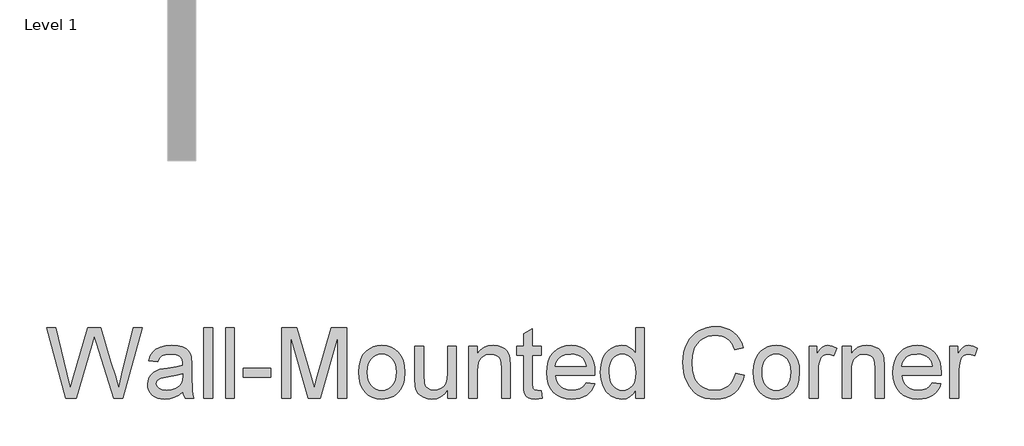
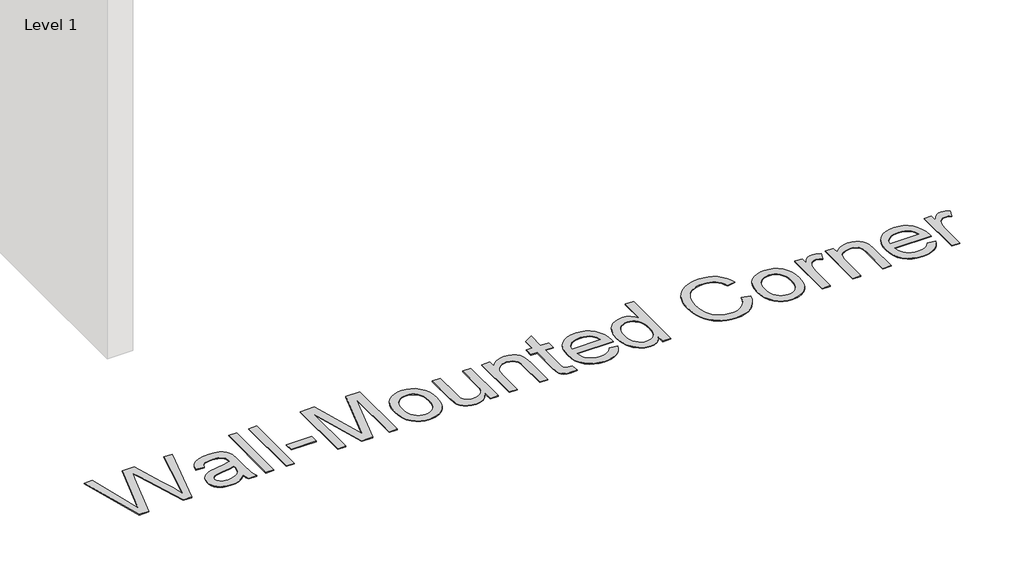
# One storey, part 67 of 80: 1 proxy.
"""IFC4 building model written with IfcOpenShell, lengths in millimetres."""

from ifc_helpers import new_model, si_unit, origin, origin_with_axes, place, context, project, spatial, polyline, outline, extrude, element, save

model = new_model("IFC4")

# Units and contexts
model_context = context("Model", 3, world=origin())
ifc_project = project(units=[si_unit("LENGTHUNIT", "METRE", prefix="MILLI")], contexts=[model_context])

# Site, building, storey
site = spatial("IfcSite", under=ifc_project)
building = spatial("IfcBuilding", under=site)
storey = spatial("IfcBuildingStorey", under=building, Name="Level 1", Elevation=0.0)

# Proxy
placement = place(None, origin())
element("IfcBuildingElementProxy", 1, Name="500mm Arial", ObjectType="500mm Arial", at=placement, inside=storey, context=model_context, shape_type="SweptSolid", body=[
    extrude(outline(polyline([(199243.9128055, 63184.635256), (199106.938076, 63686.9168067), (199171.6853072, 63686.9168067), (199251.1478181, 63356.8040297), (199275.6732845, 63254.9007171), (199301.9155334, 63345.0318059), (199401.4889268, 63686.9168067), (199494.8083262, 63686.9168067), (199567.158452, 63439.0869693), (199598.1525101, 63347.1164705), (199620.9918506, 63254.9007171), (199644.7815529, 63353.8609738), (199724.9798279, 63686.9168067), (199789.727059, 63686.9168067), (199652.6297022, 63184.635256), (199585.5525517, 63184.635256), (199465.132512, 63572.1376242), (199448.3325675, 63626.2162775), (199429.4479584, 63561.1011644), (199319.6964965, 63184.635256), (199243.9128055, 63184.635256)])), origin_with_axes(), (0.0, 0.0, 1.0), 5.0),
    extrude(outline(polyline([(200080.1085806, 63231.7241514), (200050.1108696, 63206.0030685), (200019.2241104, 63189.1724673), (199986.7431959, 63179.8834469), (199951.9630189, 63176.7871068), (199924.0078194, 63178.6495094), (199899.4938494, 63184.2367172), (199878.4211088, 63193.5487302), (199860.7895978, 63206.5855484), (199846.8675635, 63222.5194373), (199836.9232533, 63240.5226624), (199830.9566672, 63260.5952238), (199828.9678052, 63282.7371214), (199831.9721748, 63308.7647725), (199840.9852837, 63332.4011907), (199854.8881574, 63352.6347005), (199872.5618216, 63368.4536262), (199893.3318259, 63380.4097911), (199916.5237201, 63389.055018), (199970.847628, 63398.4973225), (200035.0430362, 63408.4301364), (200079.7406986, 63420.0797329), (200080.1085806, 63434.0592487), (200075.7859671, 63462.079594), (200062.8181268, 63480.4123801), (200049.7429876, 63488.3524998), (200033.8167628, 63494.0240139), (199993.411057, 63498.5612252), (199956.0097209, 63495.5415272), (199929.8900992, 63486.482433), (199912.0784793, 63469.7284738), (199899.6011483, 63443.6241806), (199836.8159544, 63451.4723298), (199847.7144585, 63485.8079827), (199863.9779084, 63512.7859957), (199887.1238173, 63533.4180443), (199918.6696984, 63548.7158039), (199957.2513226, 63558.1887653), (200001.5044609, 63561.3464191), (200043.9488461, 63558.5566473), (200077.5947203, 63550.1873319), (200102.9632495, 63537.6027019), (200120.5756, 63522.1669866), (200132.2558534, 63503.0831081), (200139.8280911, 63479.5539888), (200142.8937744, 63424.6169442), (200142.8937744, 63346.5033339), (200146.082085, 63237.4263223), (200150.8032373, 63210.4636377), (200158.5900729, 63184.635256), (200095.804879, 63184.635256), (200085.7494378, 63206.462921), (200080.1085806, 63231.7241514)]), holes=[polyline([(200080.1085806, 63357.2945391), (200037.9247785, 63346.840559), (199978.8184046, 63338.042048), (199924.8010649, 63327.8639794), (199910.744907, 63320.9048784), (199900.3369123, 63311.3092897), (199893.8989773, 63299.8129773), (199891.752999, 63287.1517053), (199896.4281661, 63268.4816941), (199910.4536671, 63253.1839344), (199933.5229339, 63242.9752091), (199965.3293981, 63239.5723006), (199999.0519143, 63243.3277626), (200028.8503559, 63254.5941487), (200053.0079403, 63271.1948238), (200069.8078847, 63290.9531526), (200077.2574951, 63311.3092897), (200079.7406986, 63339.513576), (200080.1085806, 63357.2945391)])]), origin_with_axes(), (0.0, 0.0, 1.0), 5.0),
    extrude(outline(polyline([(200229.223416, 63184.635256), (200229.223416, 63686.9168067), (200292.0086098, 63686.9168067), (200292.0086098, 63184.635256), (200229.223416, 63184.635256)])), origin_with_axes(), (0.0, 0.0, 1.0), 5.0),
    extrude(outline(polyline([(200386.1864006, 63184.635256), (200386.1864006, 63686.9168067), (200448.9715944, 63686.9168067), (200448.9715944, 63184.635256), (200386.1864006, 63184.635256)])), origin_with_axes(), (0.0, 0.0, 1.0), 5.0),
    extrude(outline(polyline([(200511.7567882, 63333.7500914), (200511.7567882, 63396.5352852), (200707.960519, 63396.5352852), (200707.960519, 63333.7500914), (200511.7567882, 63333.7500914)])), origin_with_axes(), (0.0, 0.0, 1.0), 5.0),
    extrude(outline(polyline([(200786.4420113, 63184.635256), (200786.4420113, 63686.9168067), (200894.4766906, 63686.9168067), (200997.2383946, 63332.8917), (201017.9624136, 63258.947419), (201040.4032153, 63339.0230666), (201141.4481367, 63686.9168067), (201249.4828159, 63686.9168067), (201249.4828159, 63184.635256), (201186.6976221, 63184.635256), (201186.6976221, 63624.1316129), (201060.5140977, 63184.635256), (200975.4107295, 63184.635256), (200849.2272052, 63624.1316129), (200849.2272052, 63184.635256), (200786.4420113, 63184.635256)])), origin_with_axes(), (0.0, 0.0, 1.0), 5.0),
    extrude(outline(polyline([(201335.8124574, 63369.0667629), (201339.2077017, 63416.8377728), (201349.3934344, 63458.0022352), (201366.3696557, 63492.5601502), (201390.1363654, 63520.5115176), (201414.0640235, 63538.376787), (201440.4748851, 63551.1376937), (201469.3689501, 63558.7942377), (201500.7462186, 63561.3464191), (201535.3846077, 63558.2385826), (201566.7043947, 63548.9150733), (201594.7055794, 63533.3758911), (201619.3881621, 63511.621036), (201639.5335334, 63484.3862721), (201653.9230844, 63452.4073632), (201662.5568149, 63415.6843095), (201665.4347251, 63374.2171108), (201660.3456909, 63310.7881235), (201653.984398, 63284.7528081), (201645.0785881, 63262.5036116), (201633.739392, 63243.2856095), (201620.0779408, 63226.3438772), (201604.0942345, 63211.6784147), (201585.7882732, 63199.2892221), (201545.0606706, 63182.4126356), (201500.7462186, 63176.7871068), (201465.6019918, 63179.8834469), (201433.9909649, 63189.1724673), (201405.913138, 63204.6541679), (201381.3685112, 63226.3285488), (201361.4377377, 63253.8277279), (201347.2014709, 63286.7838233), (201338.6597108, 63325.196835), (201335.8124574, 63369.0667629)]), holes=[polyline([(201398.5976513, 63369.1893902), (201400.4140686, 63338.7356588), (201405.8633207, 63312.3669504), (201414.9454074, 63290.083265), (201427.6603289, 63271.8846025), (201443.1267011, 63257.7479704), (201460.4631401, 63247.6503761), (201479.669646, 63241.5918195), (201500.7462186, 63239.5723006), (201521.7154923, 63241.6033158), (201540.8453561, 63247.6963613), (201558.1358099, 63257.8514372), (201573.5868537, 63272.0685435), (201586.3017751, 63290.4473149), (201595.3838619, 63313.087386), (201600.8331139, 63339.9887569), (201602.6495313, 63371.1514275), (201600.8216176, 63400.6394687), (201595.3378766, 63426.3183984), (201586.1983083, 63448.1882166), (201573.4029127, 63466.2489233), (201557.8943873, 63480.3855554), (201540.6154298, 63490.4831497), (201521.5660403, 63496.5417063), (201500.7462186, 63498.5612252), (201479.669646, 63496.5493705), (201460.4631401, 63490.5138066), (201443.1267011, 63480.4545333), (201427.6603289, 63466.3715506), (201414.9454074, 63448.2265376), (201405.8633207, 63425.9811732), (201400.4140686, 63399.6354574), (201398.5976513, 63369.1893902)])]), origin_with_axes(), (0.0, 0.0, 1.0), 5.0),
    extrude(outline(polyline([(201971.5125451, 63184.635256), (201971.5125451, 63248.0335865), (201948.7958319, 63216.8632516), (201922.3389851, 63194.5987267), (201892.1420047, 63181.2400117), (201858.2048906, 63176.7871068), (201827.6246997, 63179.9141037), (201799.1598304, 63189.2950946), (201775.2781575, 63203.3972377), (201758.4475562, 63220.6876915), (201747.1198565, 63241.6876221), (201739.7468881, 63266.9181956), (201736.0680682, 63325.2888055), (201736.0680682, 63553.4982698), (201798.853262, 63553.4982698), (201798.853262, 63354.8419924), (201802.6547093, 63290.8305253), (201811.805774, 63269.4780411), (201827.486744, 63253.2452481), (201848.6552871, 63242.9905375), (201874.2690711, 63239.5723006), (201901.3543829, 63243.0671796), (201926.6922554, 63253.5518164), (201947.584887, 63270.060521), (201961.3344766, 63291.6276029), (201968.968028, 63321.1654615), (201971.5125451, 63361.5864957), (201971.5125451, 63553.4982698), (202034.297739, 63553.4982698), (202034.297739, 63184.635256), (201971.5125451, 63184.635256)])), origin_with_axes(), (0.0, 0.0, 1.0), 5.0),
    extrude(outline(polyline([(202120.6273805, 63184.635256), (202120.6273805, 63553.4982698), (202183.4125743, 63553.4982698), (202183.4125743, 63501.9947905), (202205.224911, 63527.961128), (202231.4211747, 63546.5085119), (202262.0013656, 63557.6369423), (202296.9654835, 63561.3464191), (202327.9135564, 63558.3573778), (202356.2557984, 63549.3902542), (202379.8922166, 63535.5640226), (202396.7228179, 63517.9976573), (202408.1424881, 63496.7371436), (202415.5461133, 63471.8284669), (202418.8570512, 63411.1279377), (202418.8570512, 63184.635256), (202356.0718574, 63184.635256), (202356.0718574, 63402.6666518), (202354.2631043, 63435.1322379), (202348.8368448, 63458.2168331), (202338.8273889, 63474.7561944), (202323.2690462, 63487.586079), (202303.3267763, 63495.8174387), (202280.1655391, 63498.5612252), (202261.1008211, 63497.0207194), (202243.392668, 63492.3992018), (202227.0410797, 63484.6966725), (202212.0460563, 63473.9131315), (202199.5189079, 63458.8223055), (202190.5709448, 63438.1979212), (202185.202167, 63412.0399785), (202183.4125743, 63380.3484774), (202183.4125743, 63184.635256), (202120.6273805, 63184.635256)])), origin_with_axes(), (0.0, 0.0, 1.0), 5.0),
    extrude(outline(polyline([(202638.6052297, 63236.9971266), (202646.4533789, 63182.795846), (202599.4871109, 63176.7871068), (202569.3514441, 63179.3929376), (202546.8799856, 63187.21043), (202530.9997461, 63199.2585653), (202520.6377366, 63214.5563249), (202514.9355657, 63240.8292308), (202513.034842, 63285.8028047), (202513.034842, 63490.713076), (202465.9459466, 63490.713076), (202465.9459466, 63553.4982698), (202513.034842, 63553.4982698), (202513.034842, 63643.1388493), (202575.8200359, 63680.0496762), (202575.8200359, 63553.4982698), (202638.6052297, 63553.4982698), (202638.6052297, 63490.713076), (202575.8200359, 63490.713076), (202575.8200359, 63287.6422146), (202579.1309738, 63255.2685991), (202589.8608653, 63243.8029435), (202611.2593347, 63239.5723006), (202638.6052297, 63236.9971266)])), origin_with_axes(), (0.0, 0.0, 1.0), 5.0),
    extrude(outline(polyline([(202959.6435842, 63294.5093452), (203021.2025047, 63286.661196), (203011.7640322, 63262.0054381), (202999.0222861, 63240.2774078), (202982.9772661, 63221.477105), (202963.6289724, 63205.6045297), (202941.1766744, 63192.9969072), (202915.8196415, 63183.9914625), (202887.5578736, 63178.5881957), (202856.3913708, 63176.7871068), (202817.4342004, 63179.8949432), (202782.7230013, 63189.2184525), (202752.2577736, 63204.7576347), (202726.0385172, 63226.5124898), (202704.9542804, 63253.8775453), (202689.8941112, 63286.2473287), (202680.8580097, 63323.6218402), (202677.8459759, 63366.0010796), (202680.8886665, 63409.8173581), (202690.0167385, 63448.4373034), (202705.2301919, 63481.8609155), (202726.5290265, 63510.0881944), (202752.679305, 63532.5136677), (202782.4470898, 63548.5318629), (202815.8323809, 63558.14278), (202852.8351782, 63561.3464191), (202888.6461912, 63558.1504442), (202921.0313031, 63548.5625197), (202949.9905139, 63532.5826456), (202975.5238236, 63510.2108217), (202996.3666379, 63482.0448565), (203011.2543624, 63448.682558), (203020.1869971, 63410.1239264), (203023.164542, 63366.3689616), (203022.79666, 63349.4463898), (202740.6311697, 63349.4463898), (202744.2678365, 63324.3920931), (202751.499017, 63302.4494649), (202762.3247111, 63283.6185053), (202776.7449189, 63267.8992142), (202793.9625627, 63255.5061895), (202813.1805648, 63246.654029), (202834.3989253, 63241.3427327), (202857.6176442, 63239.5723006), (202891.0335921, 63242.8525817), (202919.1765647, 63252.6934251), (202942.0465621, 63269.7079674), (202959.6435842, 63294.5093452)]), holes=[polyline([(202740.6311697, 63412.2315837), (202960.3793481, 63412.2315837), (202951.8874054, 63445.4022769), (202935.2407451, 63469.1306656), (202918.1189039, 63482.0065354), (202898.6364866, 63491.2035853), (202876.7934932, 63496.7218152), (202852.5899236, 63498.5612252), (202810.2681657, 63492.6904417), (202791.8549054, 63485.3519623), (202775.2733909, 63475.0780912), (202761.3590209, 63462.3440092), (202750.947194, 63447.6248973), (202744.0379103, 63430.9207554), (202740.6311697, 63412.2315837)])]), origin_with_axes(), (0.0, 0.0, 1.0), 5.0),
    extrude(outline(polyline([(203313.5460635, 63184.635256), (203313.5460635, 63243.8642572), (203294.7610891, 63214.5180039), (203272.0060549, 63193.5563944), (203245.2809608, 63180.9794287), (203214.5858068, 63176.7871068), (203173.99616, 63182.8571597), (203136.8400785, 63201.0673184), (203105.3861679, 63230.1453245), (203081.9030339, 63268.8189192), (203067.2797246, 63315.5246042), (203062.4052881, 63368.6988809), (203066.8965142, 63421.2140357), (203080.3701922, 63468.6401563), (203090.4716187, 63489.7703784), (203102.8109939, 63508.2794412), (203117.388318, 63524.1673449), (203134.2035909, 63537.4340894), (203172.1720785, 63555.3683366), (203214.3405521, 63561.3464191), (203245.0586987, 63557.0697909), (203272.2206527, 63544.2399063), (203295.2439343, 63524.573548), (203313.5460635, 63499.7874985), (203313.5460635, 63686.9168067), (203376.3312574, 63686.9168067), (203376.3312574, 63184.635256), (203313.5460635, 63184.635256)]), holes=[polyline([(203125.190482, 63368.9441356), (203126.9609141, 63338.4980684), (203132.2722104, 63312.1523526), (203141.1243709, 63289.9069882), (203153.5173956, 63271.7619752), (203168.3169817, 63257.6789926), (203184.3888264, 63247.6197192), (203201.7329296, 63241.5841553), (203220.3492914, 63239.5723006), (203239.0537916, 63241.4921848), (203256.294428, 63247.2518373), (203272.0712007, 63256.8512581), (203286.3841095, 63270.2904472), (203298.2674644, 63287.6767036), (203306.755575, 63309.1173261), (203311.8484414, 63334.6123148), (203313.5460635, 63364.1616696), (203311.8177846, 63396.5582778), (203306.6329477, 63424.3410327), (203297.9915529, 63447.5099342), (203285.8936002, 63466.0649823), (203271.2664588, 63480.2820886), (203255.0374979, 63490.4371645), (203237.2067174, 63496.53021), (203217.7741174, 63498.5612252), (203198.7898736, 63496.6106842), (203181.4457704, 63490.7590612), (203165.7418077, 63481.0063563), (203151.6779856, 63467.3525693), (203140.0897028, 63449.4987962), (203131.8123579, 63427.1461329), (203126.845951, 63400.2945794), (203125.190482, 63368.9441356)])]), origin_with_axes(), (0.0, 0.0, 1.0), 5.0),
    extrude(outline(polyline([(204027.7276435, 63363.180651), (204090.5128373, 63346.9938432), (204078.0891558, 63307.9485344), (204061.5421302, 63273.8313114), (204040.8717606, 63244.6421744), (204016.078047, 63220.3811232), (203987.7204765, 63201.308741), (203956.3585364, 63187.6856109), (203921.9922267, 63179.5117328), (203884.6215474, 63176.7871068), (203846.3349951, 63178.8487788), (203811.7962407, 63185.0337948), (203781.0052842, 63195.3421549), (203753.9621254, 63209.773859), (203730.2950504, 63228.1143093), (203709.632345, 63250.148908), (203691.9740092, 63275.877655), (203677.3200431, 63305.3005504), (203665.8122344, 63337.1453356), (203657.5923711, 63370.1397521), (203652.6604531, 63404.2837997), (203651.0164804, 63439.5774786), (203652.8750509, 63477.4463315), (203658.4507624, 63512.8166525), (203667.7436149, 63545.6884416), (203680.7536084, 63576.0616989), (203697.1895029, 63603.4344186), (203716.7600586, 63627.3045951), (203739.4652755, 63647.6722285), (203765.3051536, 63664.5373187), (203793.402141, 63677.76191), (203822.8786858, 63687.2080467), (203853.7347882, 63692.8757286), (203885.970448, 63694.764956), (203921.8810957, 63692.3200735), (203954.8103664, 63684.9854263), (203984.75826, 63672.7610141), (204011.7247767, 63655.6468371), (204035.2653923, 63634.0950836), (204054.9355827, 63608.5579418), (204070.735348, 63579.0354117), (204082.6646881, 63545.5274933), (204019.8794943, 63530.5669588), (204009.9926656, 63555.2572056), (203998.1131429, 63576.3529388), (203984.240926, 63593.8541583), (203968.3760149, 63607.7608641), (203950.4264392, 63618.356632), (203930.3002284, 63625.9250376), (203907.9973825, 63630.466081), (203883.5179014, 63631.9797621), (203855.3519361, 63630.3013005), (203829.5925322, 63625.2659157), (203806.2396898, 63616.8736077), (203785.2934087, 63605.1243765), (203767.0181041, 63590.5470524), (203751.6781914, 63573.6704659), (203739.2736703, 63554.4946169), (203729.8045411, 63533.0195054), (203717.802391, 63487.0649129), (203713.8016743, 63439.700106), (203718.538155, 63381.6973781), (203732.747597, 63331.5427994), (203743.5388022, 63309.887579), (203756.966495, 63291.152422), (203773.0306755, 63275.3373283), (203791.7313436, 63262.442298), (203833.4093079, 63245.2897999), (203878.3675534, 63239.5723006), (203905.6636311, 63241.5190095), (203930.7754093, 63247.3591362), (203953.7028883, 63257.0926806), (203974.4460679, 63270.7196429), (203992.5144388, 63288.1787092), (204007.4174917, 63309.408566), (204019.1552266, 63334.4092133), (204027.7276435, 63363.180651)])), origin_with_axes(), (0.0, 0.0, 1.0), 5.0),
    extrude(outline(polyline([(204153.2980312, 63369.0667629), (204156.6932754, 63416.8377728), (204166.8790082, 63458.0022352), (204183.8552294, 63492.5601502), (204207.6219391, 63520.5115176), (204231.5495972, 63538.376787), (204257.9604588, 63551.1376937), (204286.8545238, 63558.7942377), (204318.2317923, 63561.3464191), (204352.8701815, 63558.2385826), (204384.1899684, 63548.9150733), (204412.1911532, 63533.3758911), (204436.8737358, 63511.621036), (204457.0191071, 63484.3862721), (204471.4086581, 63452.4073632), (204480.0423887, 63415.6843095), (204482.9202989, 63374.2171108), (204477.8312646, 63310.7881235), (204471.4699718, 63284.7528081), (204462.5641618, 63262.5036116), (204451.2249657, 63243.2856095), (204437.5635145, 63226.3438772), (204421.5798083, 63211.6784147), (204403.2738469, 63199.2892221), (204362.5462443, 63182.4126356), (204318.2317923, 63176.7871068), (204283.0875655, 63179.8834469), (204251.4765386, 63189.1724673), (204223.3987118, 63204.6541679), (204198.8540849, 63226.3285488), (204178.9233114, 63253.8277279), (204164.6870446, 63286.7838233), (204156.1452845, 63325.196835), (204153.2980312, 63369.0667629)]), holes=[polyline([(204216.083225, 63369.1893902), (204217.8996424, 63338.7356588), (204223.3488944, 63312.3669504), (204232.4309812, 63290.083265), (204245.1459026, 63271.8846025), (204260.6122748, 63257.7479704), (204277.9487139, 63247.6503761), (204297.1552197, 63241.5918195), (204318.2317923, 63239.5723006), (204339.2010661, 63241.6033158), (204358.3309298, 63247.6963613), (204375.6213836, 63257.8514372), (204391.0724274, 63272.0685435), (204403.7873488, 63290.4473149), (204412.8694356, 63313.087386), (204418.3186877, 63339.9887569), (204420.135105, 63371.1514275), (204418.3071913, 63400.6394687), (204412.8234504, 63426.3183984), (204403.683882, 63448.1882166), (204390.8884864, 63466.2489233), (204375.379961, 63480.3855554), (204358.1010036, 63490.4831497), (204339.051614, 63496.5417063), (204318.2317923, 63498.5612252), (204297.1552197, 63496.5493705), (204277.9487139, 63490.5138066), (204260.6122748, 63480.4545333), (204245.1459026, 63466.3715506), (204232.4309812, 63448.2265376), (204223.3488944, 63425.9811732), (204217.8996424, 63399.6354574), (204216.083225, 63369.1893902)])]), origin_with_axes(), (0.0, 0.0, 1.0), 5.0),
    extrude(outline(polyline([(204553.5536419, 63184.635256), (204553.5536419, 63553.4982698), (204608.4906865, 63553.4982698), (204608.4906865, 63498.9291072), (204628.7855099, 63530.5669588), (204647.486178, 63549.2063132), (204666.2481598, 63558.3113926), (204686.7269242, 63561.3464191), (204717.9968938, 63556.5026394), (204749.7573727, 63541.9713006), (204728.788099, 63485.6853554), (204706.7151793, 63495.3422578), (204684.6422595, 63498.5612252), (204665.8956062, 63495.4648851), (204649.141647, 63486.1758647), (204635.6066553, 63471.3992712), (204626.5169043, 63451.8402118), (204618.8833529, 63416.7687949), (204616.3388358, 63378.5090674), (204616.3388358, 63184.635256), (204553.5536419, 63184.635256)])), origin_with_axes(), (0.0, 0.0, 1.0), 5.0),
    extrude(outline(polyline([(204788.9981188, 63184.635256), (204788.9981188, 63553.4982698), (204851.7833127, 63553.4982698), (204851.7833127, 63501.9947905), (204873.5956493, 63527.961128), (204899.7919131, 63546.5085119), (204930.3721039, 63557.6369423), (204965.3362219, 63561.3464191), (204996.2842947, 63558.3573778), (205024.6265367, 63549.3902542), (205048.2629549, 63535.5640226), (205065.0935562, 63517.9976573), (205076.5132265, 63496.7371436), (205083.9168516, 63471.8284669), (205087.2277896, 63411.1279377), (205087.2277896, 63184.635256), (205024.4425958, 63184.635256), (205024.4425958, 63402.6666518), (205022.6338426, 63435.1322379), (205017.2075832, 63458.2168331), (205007.1981272, 63474.7561944), (204991.6397845, 63487.586079), (204971.6975147, 63495.8174387), (204948.5362774, 63498.5612252), (204929.4715594, 63497.0207194), (204911.7634063, 63492.3992018), (204895.411818, 63484.6966725), (204880.4167946, 63473.9131315), (204867.8896463, 63458.8223055), (204858.9416832, 63438.1979212), (204853.5729053, 63412.0399785), (204851.7833127, 63380.3484774), (204851.7833127, 63184.635256), (204788.9981188, 63184.635256)])), origin_with_axes(), (0.0, 0.0, 1.0), 5.0),
    extrude(outline(polyline([(205431.8105917, 63294.5093452), (205493.3695123, 63286.661196), (205483.9310398, 63262.0054381), (205471.1892936, 63240.2774078), (205455.1442737, 63221.477105), (205435.79598, 63205.6045297), (205413.343682, 63192.9969072), (205387.9866491, 63183.9914625), (205359.7248812, 63178.5881957), (205328.5583784, 63176.7871068), (205289.601208, 63179.8949432), (205254.8900089, 63189.2184525), (205224.4247812, 63204.7576347), (205198.2055248, 63226.5124898), (205177.121288, 63253.8775453), (205162.0611188, 63286.2473287), (205153.0250173, 63323.6218402), (205150.0129834, 63366.0010796), (205153.0556741, 63409.8173581), (205162.1837461, 63448.4373034), (205177.3971995, 63481.8609155), (205198.6960341, 63510.0881944), (205224.8463126, 63532.5136677), (205254.6140974, 63548.5318629), (205287.9993885, 63558.14278), (205325.0021858, 63561.3464191), (205360.8131988, 63558.1504442), (205393.1983107, 63548.5625197), (205422.1575215, 63532.5826456), (205447.6908312, 63510.2108217), (205468.5336455, 63482.0448565), (205483.42137, 63448.682558), (205492.3540047, 63410.1239264), (205495.3315496, 63366.3689616), (205494.9636676, 63349.4463898), (205212.7981773, 63349.4463898), (205216.4348441, 63324.3920931), (205223.6660246, 63302.4494649), (205234.4917187, 63283.6185053), (205248.9119265, 63267.8992142), (205266.1295703, 63255.5061895), (205285.3475724, 63246.654029), (205306.5659329, 63241.3427327), (205329.7846517, 63239.5723006), (205363.2005996, 63242.8525817), (205391.3435723, 63252.6934251), (205414.2135696, 63269.7079674), (205431.8105917, 63294.5093452)]), holes=[polyline([(205212.7981773, 63412.2315837), (205432.5463557, 63412.2315837), (205424.054413, 63445.4022769), (205407.4077527, 63469.1306656), (205390.2859115, 63482.0065354), (205370.8034942, 63491.2035853), (205348.9605007, 63496.7218152), (205324.7569311, 63498.5612252), (205282.4351733, 63492.6904417), (205264.021913, 63485.3519623), (205247.4403985, 63475.0780912), (205233.5260284, 63462.3440092), (205223.1142016, 63447.6248973), (205216.2049178, 63430.9207554), (205212.7981773, 63412.2315837)])]), origin_with_axes(), (0.0, 0.0, 1.0), 5.0),
    extrude(outline(polyline([(205558.1167434, 63184.635256), (205558.1167434, 63553.4982698), (205613.053788, 63553.4982698), (205613.053788, 63498.9291072), (205633.3486114, 63530.5669588), (205652.0492795, 63549.2063132), (205670.8112613, 63558.3113926), (205691.2900257, 63561.3464191), (205722.5599953, 63556.5026394), (205754.3204742, 63541.9713006), (205733.3512005, 63485.6853554), (205711.2782807, 63495.3422578), (205689.205361, 63498.5612252), (205670.4587077, 63495.4648851), (205653.7047485, 63486.1758647), (205640.1697568, 63471.3992712), (205631.0800058, 63451.8402118), (205623.4464544, 63416.7687949), (205620.9019373, 63378.5090674), (205620.9019373, 63184.635256), (205558.1167434, 63184.635256)])), origin_with_axes(), (0.0, 0.0, 1.0), 5.0),
])

save(model, "model.ifc")
